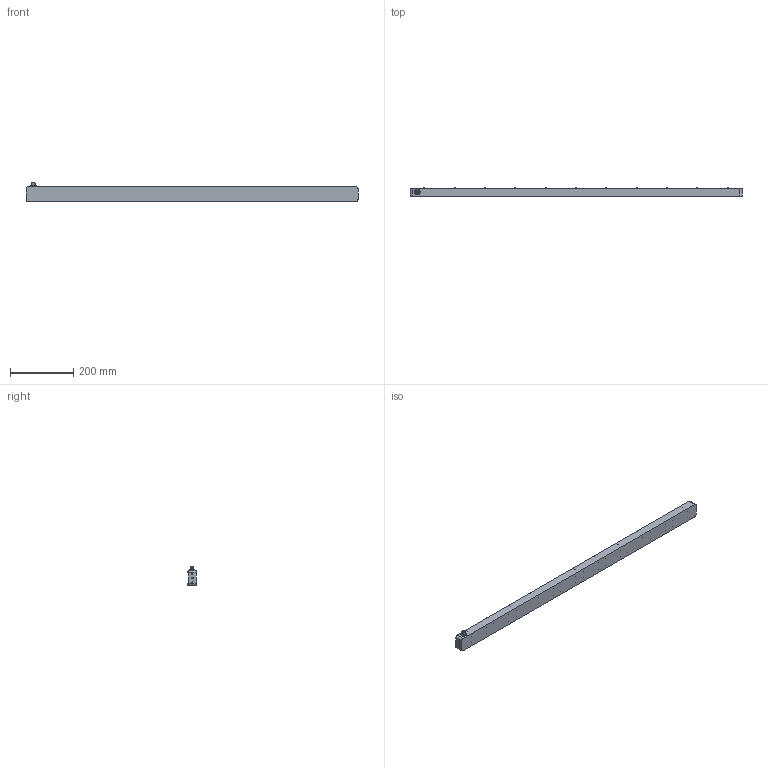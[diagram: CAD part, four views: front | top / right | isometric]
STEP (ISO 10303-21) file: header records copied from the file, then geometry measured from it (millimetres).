
FILE_DESCRIPTION (( 'STEP AP203' ), '1' );
FILE_NAME ('105815_1050.STEP', '2015-12-14T08:19:05', ( '' ), ( '' ), 'SwSTEP 2.0', 'SolidWorks 2016', '' );
FILE_SCHEMA (( 'CONFIG_CONTROL_DESIGN' ));
Length unit declared in the file: millimetre
Products named in the file (5): 105815_1050_windows; Con_M12; 105815_1050; socket button head screw_iso 7mm head dia_ISO 7380 - M3 x 8 --- 8N; 105815_1050_housing
Assembly tree (25 placements, depth 2):
  105815_1050
    105815_1050_housing
    105815_1050_windows
    socket button head screw_iso 7mm head dia_ISO 7380 - M3 x 8 --- 8N  x22
    Con_M12
Bounding box: 1050 x 26.65 x 61 mm (x, y, z)
Volume: 751350.7 mm3; surface area: 283788.8 mm2
Topology: 25 solids, 25 shells, 1301 faces, 3143 edges, 1847 vertices
Faces by surface type: plane 548, cylinder 356, cone 233, bspline 128, sphere 24, torus 12
Entity records: 27737 total; most frequent: CARTESIAN_POINT 9275, ORIENTED_EDGE 3608, DIRECTION 3567, EDGE_CURVE 1804, AXIS2_PLACEMENT_3D 1285, VERTEX_POINT 1146, LINE 997, VECTOR 997
